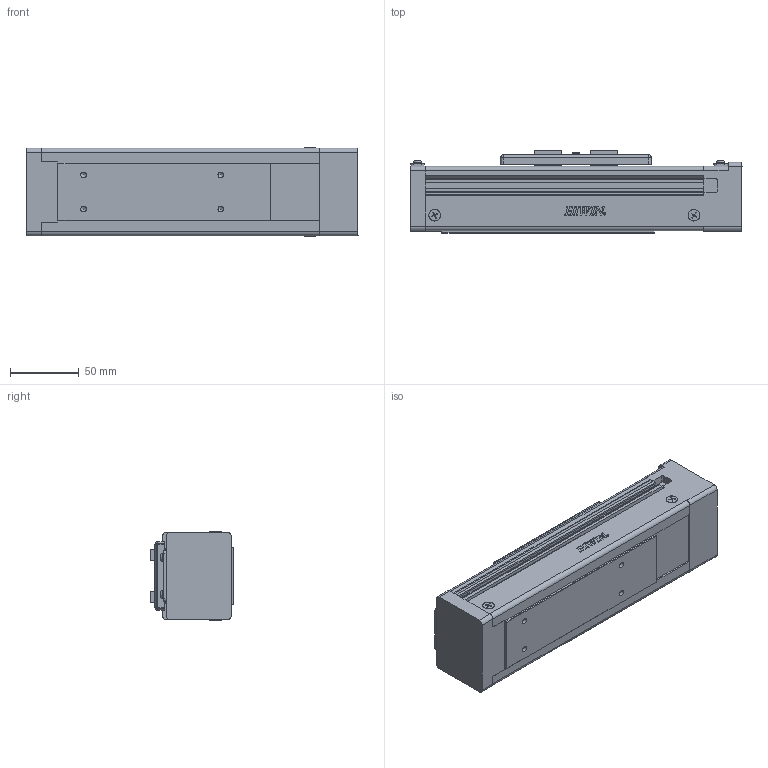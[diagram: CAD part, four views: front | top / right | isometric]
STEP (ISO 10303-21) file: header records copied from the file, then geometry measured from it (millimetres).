
FILE_DESCRIPTION(/* description */ (''),/* implementation_level */ '2;1');
FILE_NAME(/* name */ 'D:\混合母檔20191031\混和母檔\混和母檔\bin\Debug\Download\3D\KE6510C-50AF0\KE6510C-50AF0.stp',/* time_stamp */ '2019-11-04T13:51:31+08:00',/* author */ ('user'),/* organization */ (''),/* preprocessor_version */ 'ST-DEVELOPER v16.13',/* originating_system */ 'Autodesk Inventor 2018',/* authorisation */ '');
FILE_SCHEMA (('AUTOMOTIVE_DESIGN { 1 0 10303 214 3 1 1 }'));
Length unit declared in the file: millimetre
Products named in the file (3): KE6510C-50AF0; KE65-F0-BP; KE65-SL
Assembly tree (2 placements, depth 2):
  KE6510C-50AF0
    KE65-F0-BP
    KE65-SL
Bounding box: 242 x 60 x 64.57 mm (x, y, z)
Volume: 699267 mm3; surface area: 99561.8 mm2
Topology: 2 solids, 17 shells, 1066 faces, 2902 edges, 1908 vertices
Faces by surface type: plane 575, cone 158, bspline 136, cylinder 133, torus 54, sphere 10
Full cylindrical faces by diameter (mm): 2.459 x8, 2.729 x4, 3 x4, 3.242 x8, 3.5 x6, 3.571 x4, 4.134 x4, 4.2 x4, 6 x1, 8 x1, 8.4 x8, 30 x1
Entity records: 39127 total; most frequent: CARTESIAN_POINT 12871, ORIENTED_EDGE 5416, DIRECTION 4848, EDGE_CURVE 2708, VERTEX_POINT 1841, LINE 1646, VECTOR 1646, AXIS2_PLACEMENT_3D 1601
